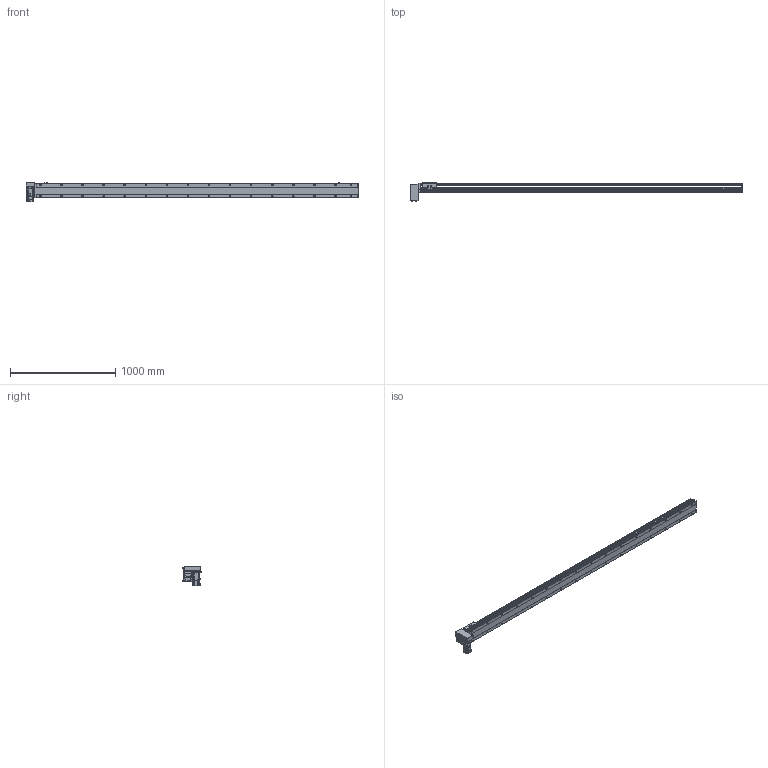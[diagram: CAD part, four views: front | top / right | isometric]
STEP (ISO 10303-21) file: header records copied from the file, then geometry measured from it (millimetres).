
FILE_DESCRIPTION( ( 'STEP AP214' ), '1' );
FILE_NAME( 'x:/temp/worker_6/temp/exporttempdir_5396_191_GzZmH/format_0/PBS140S-P40-S2800-RD-T40-C1-N(0).stp', '2022-06-09T00:48:36', ( 'License CC BY-ND 4.0' ), ( 'CADENAS' ), ' ', 'PARTsolutions', ' ' );
FILE_SCHEMA( ( 'AUTOMOTIVE_DESIGN { 1 0 10303 214 1 1 1 1 }' ) );
Length unit declared in the file: millimetre
Products named in the file (7): PBS140S-P40-S2800-RD-T40-C1-N(0); _PBS140S-S2800()_body; _PBS140ST-RD_motors; _T40-p1; _PBS140S_sliser; _PBS140S_plant; _PBS140S_sensor
Assembly tree (8 placements, depth 2):
  PBS140S-P40-S2800-RD-T40-C1-N(0)
    _PBS140S-S2800()_body
    _PBS140ST-RD_motors
    _T40-p1
    _PBS140S_sliser
    _PBS140S_plant
    _PBS140S_sensor  x3
Bounding box: 3154 x 172.5 x 189.7 mm (x, y, z)
Volume: 15236493.7 mm3; surface area: 2560251.5 mm2
Topology: 8 solids, 8 shells, 1227 faces, 3231 edges, 2113 vertices
Faces by surface type: plane 750, cylinder 409, cone 58, sphere 8, torus 2
Full cylindrical faces by diameter (mm): 3.242 x4, 4 x2, 4.134 x4, 4.4 x8, 4.5 x2, 4.8 x4, 4.917 x40, 5.5 x7, 6 x2, 7 x34, 7.5 x8, 8 x12, 8.5 x4, 10.5 x32, 14 x1, 30 x2, 50 x2
Entity records: 45472 total; most frequent: CARTESIAN_POINT 7750, DIRECTION 5908, ORIENTED_EDGE 5542, EDGE_CURVE 2771, AXIS2_PLACEMENT_3D 2099, VERTEX_POINT 1945, LINE 1710, VECTOR 1710
